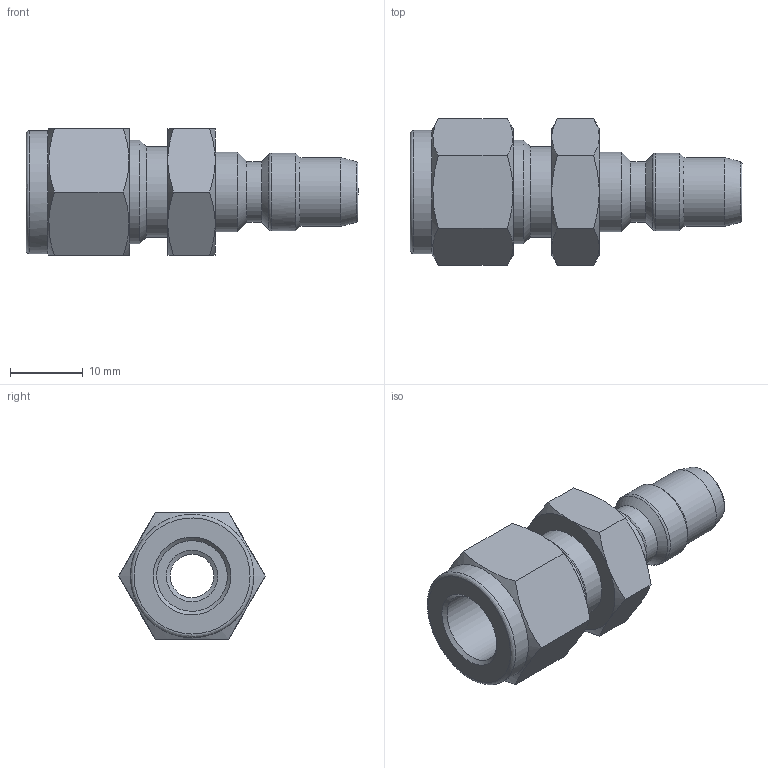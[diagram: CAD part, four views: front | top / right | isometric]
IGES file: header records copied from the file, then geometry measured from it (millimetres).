
Global section: file name: SFQC2P-S6; native system: Autodesk Inventor 2016; preprocessor: unknown; author: 이승민,,11,0; organization: 20170206.083131; date: 20170208.203244; units: millimetre
Bounding box: 45.77 x 20.21 x 17.5 mm (x, y, z)
Volume: 5430.9 mm3; surface area: 3781.3 mm2
Topology: 1 solids, 1 shells, 58 faces, 162 edges, 110 vertices
Faces by surface type: bspline 58
